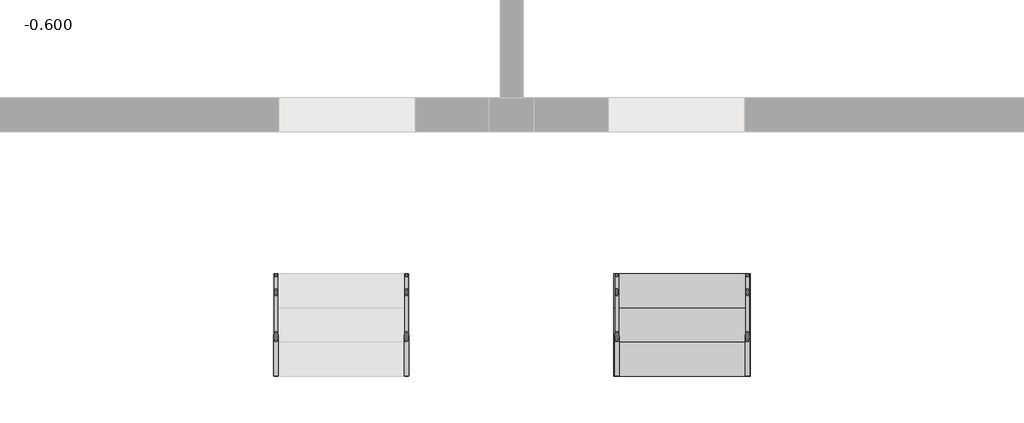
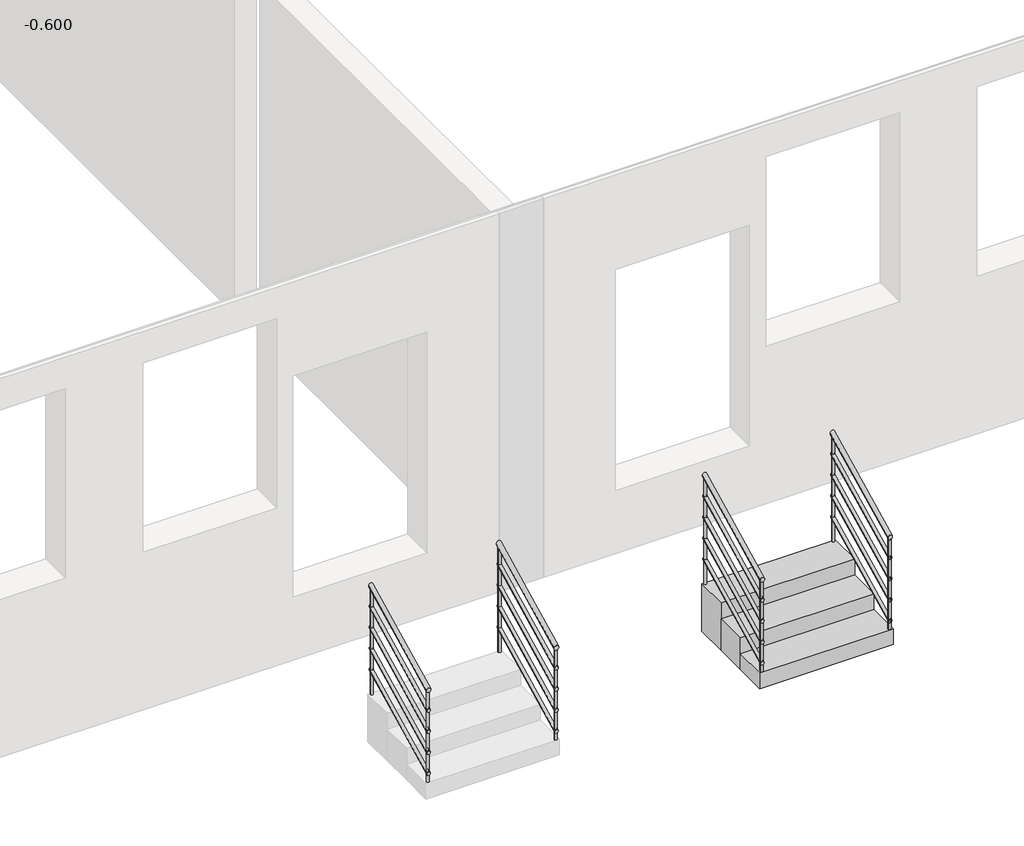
# One storey, part 2 of 2: 4 railings, 1 stair flight.
"""IFC4 building model written with IfcOpenShell, lengths in millimetres."""

from ifc_helpers import new_model, si_unit, frame, origin, place, context, project, spatial, circle_curve, ellipse_curve, faceted_brep, element, save
from ifc_brep_helpers import plane_surface, cylinder_surface, advanced_brep

model = new_model("IFC4")

# Units and contexts
model_context = context("Model", 3, world=origin())
ifc_project = project(units=[si_unit("LENGTHUNIT", "METRE", prefix="MILLI")], contexts=[model_context])

# Site, building, storey
site = spatial("IfcSite", under=ifc_project)
building = spatial("IfcBuilding", under=site)
storey = spatial("IfcBuildingStorey", under=building, Name="-0.600", Elevation=-600.0)

# Railings
placement = place(None, origin())
element("IfcRailing", 1, ObjectType="900mm 圆管", at=placement, inside=storey, context=model_context, shape_type="AdvancedBrep", body=[
    advanced_brep(
    [(-2744.9311174, -7419.5294667, 427.6393202), (-2784.9311174, -7419.5294667, 427.6393202), (-2744.9311174, -6519.5294667, 877.6393202), (-2784.9311174, -6519.5294667, 877.6393202)],
    [
        (0, 1, ellipse_curve(frame((-2764.9311174, -7419.5294667, 427.6393202), z_axis=(0.0, -1.0, 0.0), x_axis=(0.0, 0.0, -1.0)), 22.3606798, 20.0)),
        (1, 0, ellipse_curve(frame((-2764.9311174, -7419.5294667, 427.6393202), z_axis=(0.0, -1.0, 0.0), x_axis=(0.0, 0.0, -1.0)), 22.3606798, 20.0)),
        (2, 3, ellipse_curve(frame((-2764.9311174, -6519.5294667, 877.6393202), z_axis=(0.0, 1.0, 0.0), x_axis=(0.0, 0.0, -1.0)), 22.3606798, 20.0)),
        (3, 2, ellipse_curve(frame((-2764.9311174, -6519.5294667, 877.6393202), z_axis=(0.0, 1.0, 0.0), x_axis=(0.0, 0.0, -1.0)), 22.3606798, 20.0)),
        (0, 2),
        (3, 1),
    ],
    [
        plane_surface(frame((-2764.9311174, -7419.5294667, 450.0), z_axis=(0.0, -1.0, 0.0), x_axis=(0.0, 0.0, 1.0))),
        plane_surface(frame((-2764.9311174, -6519.5294667, 900.0), z_axis=(0.0, 1.0, 0.0), x_axis=(0.0, 0.0, 1.0))),
        cylinder_surface(frame((-2764.9311174, -7410.5851948, 432.1114562), z_axis=(0.0, -0.8944271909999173, -0.44721359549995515), x_axis=(-1.0, 0.0, 0.0)), 20.0),
    ],
    [
        (0, [[1, 2]]),
        (1, [[3, 4]]),
        (2, [[-1, 5, -4, 6]]),
        (2, [[-2, -6, -3, -5]]),
    ],
),
    advanced_brep(
    [(-2779.9311174, -7419.5294667, 233.2294902), (-2749.9311174, -7419.5294667, 233.2294902), (-2779.9311174, -6519.5294667, 683.2294902), (-2749.9311174, -6519.5294667, 683.2294902)],
    [
        (0, 1, ellipse_curve(frame((-2764.9311174, -7419.5294667, 233.2294902), z_axis=(0.0, -1.0, 0.0), x_axis=(0.0, 0.0, -1.0)), 16.7705098, 15.0)),
        (1, 0, ellipse_curve(frame((-2764.9311174, -7419.5294667, 233.2294902), z_axis=(0.0, -1.0, 0.0), x_axis=(0.0, 0.0, -1.0)), 16.7705098, 15.0)),
        (2, 3, ellipse_curve(frame((-2764.9311174, -6519.5294667, 683.2294902), z_axis=(0.0, 1.0, 0.0), x_axis=(0.0, 0.0, -1.0)), 16.7705098, 15.0)),
        (3, 2, ellipse_curve(frame((-2764.9311174, -6519.5294667, 683.2294902), z_axis=(0.0, 1.0, 0.0), x_axis=(0.0, 0.0, -1.0)), 16.7705098, 15.0)),
        (0, 2),
        (3, 1),
    ],
    [
        plane_surface(frame((-2764.9311174, -7419.5294667, 250.0), z_axis=(0.0, -1.0, 0.0), x_axis=(0.0, 0.0, 1.0))),
        plane_surface(frame((-2764.9311174, -6519.5294667, 700.0), z_axis=(0.0, 1.0, 0.0), x_axis=(0.0, 0.0, 1.0))),
        cylinder_surface(frame((-2764.9311174, -7412.8212628, 236.5835921), z_axis=(0.0, -0.8944271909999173, -0.44721359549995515), x_axis=(1.0, 0.0, 0.0)), 15.0),
    ],
    [
        (0, [[1, 2]]),
        (1, [[3, 4]]),
        (2, [[-1, 5, -4, 6]]),
        (2, [[-2, -6, -3, -5]]),
    ],
),
    advanced_brep(
    [(-2779.9311174, -7419.5294667, 33.2294902), (-2749.9311174, -7419.5294667, 33.2294902), (-2779.9311174, -6519.5294667, 483.2294902), (-2749.9311174, -6519.5294667, 483.2294902)],
    [
        (0, 1, ellipse_curve(frame((-2764.9311174, -7419.5294667, 33.2294902), z_axis=(0.0, -1.0, 0.0), x_axis=(0.0, 0.0, -1.0)), 16.7705098, 15.0)),
        (1, 0, ellipse_curve(frame((-2764.9311174, -7419.5294667, 33.2294902), z_axis=(0.0, -1.0, 0.0), x_axis=(0.0, 0.0, -1.0)), 16.7705098, 15.0)),
        (2, 3, ellipse_curve(frame((-2764.9311174, -6519.5294667, 483.2294902), z_axis=(0.0, 1.0, 0.0), x_axis=(0.0, 0.0, -1.0)), 16.7705098, 15.0)),
        (3, 2, ellipse_curve(frame((-2764.9311174, -6519.5294667, 483.2294902), z_axis=(0.0, 1.0, 0.0), x_axis=(0.0, 0.0, -1.0)), 16.7705098, 15.0)),
        (0, 2),
        (3, 1),
    ],
    [
        plane_surface(frame((-2764.9311174, -7419.5294667, 50.0), z_axis=(0.0, -1.0, 0.0), x_axis=(0.0, 0.0, 1.0))),
        plane_surface(frame((-2764.9311174, -6519.5294667, 500.0), z_axis=(0.0, 1.0, 0.0), x_axis=(0.0, 0.0, 1.0))),
        cylinder_surface(frame((-2764.9311174, -7412.8212628, 36.5835921), z_axis=(0.0, -0.8944271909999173, -0.44721359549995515), x_axis=(1.0, 0.0, 0.0)), 15.0),
    ],
    [
        (0, [[1, 2]]),
        (1, [[3, 4]]),
        (2, [[-1, 5, -4, 6]]),
        (2, [[-2, -6, -3, -5]]),
    ],
),
    advanced_brep(
    [(-2779.9311174, -7419.5294667, -166.7705098), (-2749.9311174, -7419.5294667, -166.7705098), (-2779.9311174, -6519.5294667, 283.2294902), (-2749.9311174, -6519.5294667, 283.2294902)],
    [
        (0, 1, ellipse_curve(frame((-2764.9311174, -7419.5294667, -166.7705098), z_axis=(0.0, -1.0, 0.0), x_axis=(0.0, 0.0, -1.0)), 16.7705098, 15.0)),
        (1, 0, ellipse_curve(frame((-2764.9311174, -7419.5294667, -166.7705098), z_axis=(0.0, -1.0, 0.0), x_axis=(0.0, 0.0, -1.0)), 16.7705098, 15.0)),
        (2, 3, ellipse_curve(frame((-2764.9311174, -6519.5294667, 283.2294902), z_axis=(0.0, 1.0, 0.0), x_axis=(0.0, 0.0, -1.0)), 16.7705098, 15.0)),
        (3, 2, ellipse_curve(frame((-2764.9311174, -6519.5294667, 283.2294902), z_axis=(0.0, 1.0, 0.0), x_axis=(0.0, 0.0, -1.0)), 16.7705098, 15.0)),
        (0, 2),
        (3, 1),
    ],
    [
        plane_surface(frame((-2764.9311174, -7419.5294667, -150.0), z_axis=(0.0, -1.0, 0.0), x_axis=(0.0, 0.0, 1.0))),
        plane_surface(frame((-2764.9311174, -6519.5294667, 300.0), z_axis=(0.0, 1.0, 0.0), x_axis=(0.0, 0.0, 1.0))),
        cylinder_surface(frame((-2764.9311174, -7412.8212628, -163.4164079), z_axis=(0.0, -0.8944271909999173, -0.44721359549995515), x_axis=(1.0, 0.0, 0.0)), 15.0),
    ],
    [
        (0, [[1, 2]]),
        (1, [[3, 4]]),
        (2, [[-1, 5, -4, 6]]),
        (2, [[-2, -6, -3, -5]]),
    ],
),
    advanced_brep(
    [(-2779.9311174, -7419.5294667, -366.7705098), (-2749.9311174, -7419.5294667, -366.7705098), (-2779.9311174, -6519.5294667, 83.2294902), (-2749.9311174, -6519.5294667, 83.2294902)],
    [
        (0, 1, ellipse_curve(frame((-2764.9311174, -7419.5294667, -366.7705098), z_axis=(0.0, -1.0, 0.0), x_axis=(0.0, 0.0, -1.0)), 16.7705098, 15.0)),
        (1, 0, ellipse_curve(frame((-2764.9311174, -7419.5294667, -366.7705098), z_axis=(0.0, -1.0, 0.0), x_axis=(0.0, 0.0, -1.0)), 16.7705098, 15.0)),
        (2, 3, ellipse_curve(frame((-2764.9311174, -6519.5294667, 83.2294902), z_axis=(0.0, 1.0, 0.0), x_axis=(0.0, 0.0, -1.0)), 16.7705098, 15.0)),
        (3, 2, ellipse_curve(frame((-2764.9311174, -6519.5294667, 83.2294902), z_axis=(0.0, 1.0, 0.0), x_axis=(0.0, 0.0, -1.0)), 16.7705098, 15.0)),
        (0, 2),
        (3, 1),
    ],
    [
        plane_surface(frame((-2764.9311174, -7419.5294667, -350.0), z_axis=(0.0, -1.0, 0.0), x_axis=(0.0, 0.0, 1.0))),
        plane_surface(frame((-2764.9311174, -6519.5294667, 100.0), z_axis=(0.0, 1.0, 0.0), x_axis=(0.0, 0.0, 1.0))),
        cylinder_surface(frame((-2764.9311174, -7412.8212628, -363.4164079), z_axis=(0.0, -0.8944271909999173, -0.44721359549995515), x_axis=(1.0, 0.0, 0.0)), 15.0),
    ],
    [
        (0, [[1, 2]]),
        (1, [[3, 4]]),
        (2, [[-1, 5, -4, 6]]),
        (2, [[-2, -6, -3, -5]]),
    ],
),
    advanced_brep(
    [(-2752.4311174, -6532.0294667, 849.0286405), (-2752.4311174, -6532.0294667, -150.0), (-2777.4311174, -6532.0294667, -150.0), (-2777.4311174, -6532.0294667, 849.0286405)],
    [
        (0, 1),
        (1, 2, circle_curve(frame((-2764.9311174, -6532.0294667, -150.0), z_axis=(0.0, 0.0, 1.0), x_axis=(-1.0, 0.0, 0.0)), 12.5)),
        (2, 3),
        (3, 0, ellipse_curve(frame((-2764.9311174, -6532.0294667, 849.0286405), z_axis=(0.0, 0.4472135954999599, -0.894427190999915), x_axis=(0.0, 0.8944271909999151, 0.44721359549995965)), 13.9754249, 12.5)),
        (0, 3, ellipse_curve(frame((-2764.9311174, -6532.0294667, 849.0286405), z_axis=(0.0, 0.4472135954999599, -0.894427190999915), x_axis=(0.0, 0.8944271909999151, 0.44721359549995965)), 13.9754249, 12.5)),
        (2, 1, circle_curve(frame((-2764.9311174, -6532.0294667, -150.0), z_axis=(0.0, 0.0, 1.0), x_axis=(-1.0, 0.0, 0.0)), 12.5)),
    ],
    [
        cylinder_surface(frame((-2764.9311174, -6532.0294667, -250.0), z_axis=(0.0, 0.0, 1.0), x_axis=(-1.0, 0.0, 0.0)), 12.5),
        plane_surface(frame((-2789.9311174, -6507.0294667, 861.5286405), z_axis=(0.0, -0.4472135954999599, 0.894427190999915), x_axis=(1.0, 0.0, 0.0))),
        plane_surface(frame((-2789.9311174, -6557.0294667, -150.0), z_axis=(0.0, 0.0, -1.0), x_axis=(1.0, 0.0, 0.0))),
    ],
    [
        (0, [[1, 2, 3, 4]]),
        (0, [[-1, 5, -3, 6]]),
        (1, [[-4, -5]]),
        (2, [[-2, -6]]),
    ],
),
    advanced_brep(
    [(-2752.4311174, -7407.0294667, 411.5286405), (-2752.4311174, -7407.0294667, -450.0), (-2777.4311174, -7407.0294667, -450.0), (-2777.4311174, -7407.0294667, 411.5286405)],
    [
        (0, 1),
        (1, 2, circle_curve(frame((-2764.9311174, -7407.0294667, -450.0), z_axis=(0.0, 0.0, 1.0), x_axis=(-1.0, 0.0, 0.0)), 12.5)),
        (2, 3),
        (3, 0, ellipse_curve(frame((-2764.9311174, -7407.0294667, 411.5286405), z_axis=(0.0, 0.4472135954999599, -0.894427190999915), x_axis=(0.0, 0.8944271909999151, 0.44721359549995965)), 13.9754249, 12.5)),
        (0, 3, ellipse_curve(frame((-2764.9311174, -7407.0294667, 411.5286405), z_axis=(0.0, 0.4472135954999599, -0.894427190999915), x_axis=(0.0, 0.8944271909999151, 0.44721359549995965)), 13.9754249, 12.5)),
        (2, 1, circle_curve(frame((-2764.9311174, -7407.0294667, -450.0), z_axis=(0.0, 0.0, 1.0), x_axis=(-1.0, 0.0, 0.0)), 12.5)),
    ],
    [
        cylinder_surface(frame((-2764.9311174, -7407.0294667, -550.0), z_axis=(0.0, 0.0, 1.0), x_axis=(-1.0, 0.0, 0.0)), 12.5),
        plane_surface(frame((-2789.9311174, -7382.0294667, 424.0286405), z_axis=(0.0, -0.4472135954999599, 0.894427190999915), x_axis=(1.0, 0.0, 0.0))),
        plane_surface(frame((-2789.9311174, -7432.0294667, -450.0), z_axis=(0.0, 0.0, -1.0), x_axis=(1.0, 0.0, 0.0))),
    ],
    [
        (0, [[1, 2, 3, 4]]),
        (0, [[-1, 5, -3, 6]]),
        (1, [[-4, -5]]),
        (2, [[-2, -6]]),
    ],
),
])
element("IfcRailing", 2, ObjectType="900mm 圆管", at=placement, inside=storey, context=model_context, shape_type="AdvancedBrep", body=[
    advanced_brep(
    [(-3894.1311174, -7419.5294667, 427.6393202), (-3934.1311174, -7419.5294667, 427.6393202), (-3894.1311174, -6519.5294667, 877.6393202), (-3934.1311174, -6519.5294667, 877.6393202)],
    [
        (0, 1, ellipse_curve(frame((-3914.1311174, -7419.5294667, 427.6393202), z_axis=(0.0, -1.0, 0.0), x_axis=(0.0, 0.0, -1.0)), 22.3606798, 20.0)),
        (1, 0, ellipse_curve(frame((-3914.1311174, -7419.5294667, 427.6393202), z_axis=(0.0, -1.0, 0.0), x_axis=(0.0, 0.0, -1.0)), 22.3606798, 20.0)),
        (2, 3, ellipse_curve(frame((-3914.1311174, -6519.5294667, 877.6393202), z_axis=(0.0, 1.0, 0.0), x_axis=(0.0, 0.0, -1.0)), 22.3606798, 20.0)),
        (3, 2, ellipse_curve(frame((-3914.1311174, -6519.5294667, 877.6393202), z_axis=(0.0, 1.0, 0.0), x_axis=(0.0, 0.0, -1.0)), 22.3606798, 20.0)),
        (0, 2),
        (3, 1),
    ],
    [
        plane_surface(frame((-3914.1311174, -7419.5294667, 450.0), z_axis=(0.0, -1.0, 0.0), x_axis=(0.0, 0.0, 1.0))),
        plane_surface(frame((-3914.1311174, -6519.5294667, 900.0), z_axis=(0.0, 1.0, 0.0), x_axis=(0.0, 0.0, 1.0))),
        cylinder_surface(frame((-3914.1311174, -7410.5851948, 432.1114562), z_axis=(0.0, -0.8944271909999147, -0.4472135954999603), x_axis=(-1.0, 0.0, 0.0)), 20.0),
    ],
    [
        (0, [[1, 2]]),
        (1, [[3, 4]]),
        (2, [[-1, 5, -4, 6]]),
        (2, [[-2, -6, -3, -5]]),
    ],
),
    advanced_brep(
    [(-3899.1311174, -7419.5294667, 233.2294902), (-3929.1311174, -7419.5294667, 233.2294902), (-3899.1311174, -6519.5294667, 683.2294902), (-3929.1311174, -6519.5294667, 683.2294902)],
    [
        (0, 1, ellipse_curve(frame((-3914.1311174, -7419.5294667, 233.2294902), z_axis=(0.0, -1.0, 0.0), x_axis=(0.0, 0.0, -1.0)), 16.7705098, 15.0)),
        (1, 0, ellipse_curve(frame((-3914.1311174, -7419.5294667, 233.2294902), z_axis=(0.0, -1.0, 0.0), x_axis=(0.0, 0.0, -1.0)), 16.7705098, 15.0)),
        (2, 3, ellipse_curve(frame((-3914.1311174, -6519.5294667, 683.2294902), z_axis=(0.0, 1.0, 0.0), x_axis=(0.0, 0.0, -1.0)), 16.7705098, 15.0)),
        (3, 2, ellipse_curve(frame((-3914.1311174, -6519.5294667, 683.2294902), z_axis=(0.0, 1.0, 0.0), x_axis=(0.0, 0.0, -1.0)), 16.7705098, 15.0)),
        (0, 2),
        (3, 1),
    ],
    [
        plane_surface(frame((-3914.1311174, -7419.5294667, 250.0), z_axis=(0.0, -1.0, 0.0), x_axis=(0.0, 0.0, 1.0))),
        plane_surface(frame((-3914.1311174, -6519.5294667, 700.0), z_axis=(0.0, 1.0, 0.0), x_axis=(0.0, 0.0, 1.0))),
        cylinder_surface(frame((-3914.1311174, -7412.8212628, 236.5835921), z_axis=(0.0, -0.8944271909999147, -0.4472135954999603), x_axis=(-1.0, 0.0, 0.0)), 15.0),
    ],
    [
        (0, [[1, 2]]),
        (1, [[3, 4]]),
        (2, [[-1, 5, -4, 6]]),
        (2, [[-2, -6, -3, -5]]),
    ],
),
    advanced_brep(
    [(-3899.1311174, -7419.5294667, 33.2294902), (-3929.1311174, -7419.5294667, 33.2294902), (-3899.1311174, -6519.5294667, 483.2294902), (-3929.1311174, -6519.5294667, 483.2294902)],
    [
        (0, 1, ellipse_curve(frame((-3914.1311174, -7419.5294667, 33.2294902), z_axis=(0.0, -1.0, 0.0), x_axis=(0.0, 0.0, -1.0)), 16.7705098, 15.0)),
        (1, 0, ellipse_curve(frame((-3914.1311174, -7419.5294667, 33.2294902), z_axis=(0.0, -1.0, 0.0), x_axis=(0.0, 0.0, -1.0)), 16.7705098, 15.0)),
        (2, 3, ellipse_curve(frame((-3914.1311174, -6519.5294667, 483.2294902), z_axis=(0.0, 1.0, 0.0), x_axis=(0.0, 0.0, -1.0)), 16.7705098, 15.0)),
        (3, 2, ellipse_curve(frame((-3914.1311174, -6519.5294667, 483.2294902), z_axis=(0.0, 1.0, 0.0), x_axis=(0.0, 0.0, -1.0)), 16.7705098, 15.0)),
        (0, 2),
        (3, 1),
    ],
    [
        plane_surface(frame((-3914.1311174, -7419.5294667, 50.0), z_axis=(0.0, -1.0, 0.0), x_axis=(0.0, 0.0, 1.0))),
        plane_surface(frame((-3914.1311174, -6519.5294667, 500.0), z_axis=(0.0, 1.0, 0.0), x_axis=(0.0, 0.0, 1.0))),
        cylinder_surface(frame((-3914.1311174, -7412.8212628, 36.5835921), z_axis=(0.0, -0.8944271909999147, -0.4472135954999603), x_axis=(-1.0, 0.0, 0.0)), 15.0),
    ],
    [
        (0, [[1, 2]]),
        (1, [[3, 4]]),
        (2, [[-1, 5, -4, 6]]),
        (2, [[-2, -6, -3, -5]]),
    ],
),
    advanced_brep(
    [(-3899.1311174, -7419.5294667, -166.7705098), (-3929.1311174, -7419.5294667, -166.7705098), (-3899.1311174, -6519.5294667, 283.2294902), (-3929.1311174, -6519.5294667, 283.2294902)],
    [
        (0, 1, ellipse_curve(frame((-3914.1311174, -7419.5294667, -166.7705098), z_axis=(0.0, -1.0, 0.0), x_axis=(0.0, 0.0, -1.0)), 16.7705098, 15.0)),
        (1, 0, ellipse_curve(frame((-3914.1311174, -7419.5294667, -166.7705098), z_axis=(0.0, -1.0, 0.0), x_axis=(0.0, 0.0, -1.0)), 16.7705098, 15.0)),
        (2, 3, ellipse_curve(frame((-3914.1311174, -6519.5294667, 283.2294902), z_axis=(0.0, 1.0, 0.0), x_axis=(0.0, 0.0, -1.0)), 16.7705098, 15.0)),
        (3, 2, ellipse_curve(frame((-3914.1311174, -6519.5294667, 283.2294902), z_axis=(0.0, 1.0, 0.0), x_axis=(0.0, 0.0, -1.0)), 16.7705098, 15.0)),
        (0, 2),
        (3, 1),
    ],
    [
        plane_surface(frame((-3914.1311174, -7419.5294667, -150.0), z_axis=(0.0, -1.0, 0.0), x_axis=(0.0, 0.0, 1.0))),
        plane_surface(frame((-3914.1311174, -6519.5294667, 300.0), z_axis=(0.0, 1.0, 0.0), x_axis=(0.0, 0.0, 1.0))),
        cylinder_surface(frame((-3914.1311174, -7412.8212628, -163.4164079), z_axis=(0.0, -0.8944271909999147, -0.4472135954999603), x_axis=(-1.0, 0.0, 0.0)), 15.0),
    ],
    [
        (0, [[1, 2]]),
        (1, [[3, 4]]),
        (2, [[-1, 5, -4, 6]]),
        (2, [[-2, -6, -3, -5]]),
    ],
),
    advanced_brep(
    [(-3899.1311174, -7419.5294667, -366.7705098), (-3929.1311174, -7419.5294667, -366.7705098), (-3899.1311174, -6519.5294667, 83.2294902), (-3929.1311174, -6519.5294667, 83.2294902)],
    [
        (0, 1, ellipse_curve(frame((-3914.1311174, -7419.5294667, -366.7705098), z_axis=(0.0, -1.0, 0.0), x_axis=(0.0, 0.0, -1.0)), 16.7705098, 15.0)),
        (1, 0, ellipse_curve(frame((-3914.1311174, -7419.5294667, -366.7705098), z_axis=(0.0, -1.0, 0.0), x_axis=(0.0, 0.0, -1.0)), 16.7705098, 15.0)),
        (2, 3, ellipse_curve(frame((-3914.1311174, -6519.5294667, 83.2294902), z_axis=(0.0, 1.0, 0.0), x_axis=(0.0, 0.0, -1.0)), 16.7705098, 15.0)),
        (3, 2, ellipse_curve(frame((-3914.1311174, -6519.5294667, 83.2294902), z_axis=(0.0, 1.0, 0.0), x_axis=(0.0, 0.0, -1.0)), 16.7705098, 15.0)),
        (0, 2),
        (3, 1),
    ],
    [
        plane_surface(frame((-3914.1311174, -7419.5294667, -350.0), z_axis=(0.0, -1.0, 0.0), x_axis=(0.0, 0.0, 1.0))),
        plane_surface(frame((-3914.1311174, -6519.5294667, 100.0), z_axis=(0.0, 1.0, 0.0), x_axis=(0.0, 0.0, 1.0))),
        cylinder_surface(frame((-3914.1311174, -7412.8212628, -363.4164079), z_axis=(0.0, -0.8944271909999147, -0.4472135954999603), x_axis=(-1.0, 0.0, 0.0)), 15.0),
    ],
    [
        (0, [[1, 2]]),
        (1, [[3, 4]]),
        (2, [[-1, 5, -4, 6]]),
        (2, [[-2, -6, -3, -5]]),
    ],
),
    advanced_brep(
    [(-3926.6311174, -6532.0294667, 849.0286405), (-3901.6311174, -6532.0294667, 849.0286405), (-3901.6311174, -6532.0294667, -150.0), (-3926.6311174, -6532.0294667, -150.0)],
    [
        (0, 1, ellipse_curve(frame((-3914.1311174, -6532.0294667, 849.0286405), z_axis=(0.0, 0.4472135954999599, -0.894427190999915), x_axis=(0.0, 0.8944271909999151, 0.44721359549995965)), 13.9754249, 12.5)),
        (1, 2),
        (2, 3, circle_curve(frame((-3914.1311174, -6532.0294667, -150.0), z_axis=(0.0, 0.0, 1.0), x_axis=(1.0, 0.0, 0.0)), 12.5)),
        (3, 0),
        (3, 2, circle_curve(frame((-3914.1311174, -6532.0294667, -150.0), z_axis=(0.0, 0.0, 1.0), x_axis=(1.0, 0.0, 0.0)), 12.5)),
        (1, 0, ellipse_curve(frame((-3914.1311174, -6532.0294667, 849.0286405), z_axis=(0.0, 0.4472135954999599, -0.894427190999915), x_axis=(0.0, 0.8944271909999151, 0.44721359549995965)), 13.9754249, 12.5)),
    ],
    [
        cylinder_surface(frame((-3914.1311174, -6532.0294667, -250.0), z_axis=(0.0, 0.0, 1.0), x_axis=(1.0, 0.0, 0.0)), 12.5),
        plane_surface(frame((-3889.1311174, -6507.0294667, 861.5286405), z_axis=(0.0, -0.4472135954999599, 0.894427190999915), x_axis=(-1.0, 0.0, 0.0))),
        plane_surface(frame((-3889.1311174, -6557.0294667, -150.0), z_axis=(0.0, 0.0, -1.0), x_axis=(-1.0, 0.0, 0.0))),
    ],
    [
        (0, [[1, 2, 3, 4]]),
        (0, [[5, -2, 6, -4]]),
        (1, [[-6, -1]]),
        (2, [[-5, -3]]),
    ],
),
    advanced_brep(
    [(-3926.6311174, -7407.0294667, 411.5286405), (-3901.6311174, -7407.0294667, 411.5286405), (-3901.6311174, -7407.0294667, -450.0), (-3926.6311174, -7407.0294667, -450.0)],
    [
        (0, 1, ellipse_curve(frame((-3914.1311174, -7407.0294667, 411.5286405), z_axis=(0.0, 0.4472135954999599, -0.894427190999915), x_axis=(0.0, 0.8944271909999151, 0.44721359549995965)), 13.9754249, 12.5)),
        (1, 2),
        (2, 3, circle_curve(frame((-3914.1311174, -7407.0294667, -450.0), z_axis=(0.0, 0.0, 1.0), x_axis=(1.0, 0.0, 0.0)), 12.5)),
        (3, 0),
        (3, 2, circle_curve(frame((-3914.1311174, -7407.0294667, -450.0), z_axis=(0.0, 0.0, 1.0), x_axis=(1.0, 0.0, 0.0)), 12.5)),
        (1, 0, ellipse_curve(frame((-3914.1311174, -7407.0294667, 411.5286405), z_axis=(0.0, 0.4472135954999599, -0.894427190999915), x_axis=(0.0, 0.8944271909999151, 0.44721359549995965)), 13.9754249, 12.5)),
    ],
    [
        cylinder_surface(frame((-3914.1311174, -7407.0294667, -550.0), z_axis=(0.0, 0.0, 1.0), x_axis=(1.0, 0.0, 0.0)), 12.5),
        plane_surface(frame((-3889.1311174, -7382.0294667, 424.0286405), z_axis=(0.0, -0.4472135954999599, 0.894427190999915), x_axis=(-1.0, 0.0, 0.0))),
        plane_surface(frame((-3889.1311174, -7432.0294667, -450.0), z_axis=(0.0, 0.0, -1.0), x_axis=(-1.0, 0.0, 0.0))),
    ],
    [
        (0, [[1, 2, 3, 4]]),
        (0, [[5, -2, 6, -4]]),
        (1, [[-6, -1]]),
        (2, [[-5, -3]]),
    ],
),
])
element("IfcRailing", 3, ObjectType="900mm 圆管", at=placement, inside=storey, context=model_context, shape_type="AdvancedBrep", body=[
    advanced_brep(
    [(-894.1311174, -7419.5294667, 427.6393202), (-934.1311174, -7419.5294667, 427.6393202), (-894.1311174, -6519.5294667, 877.6393202), (-934.1311174, -6519.5294667, 877.6393202)],
    [
        (0, 1, ellipse_curve(frame((-914.1311174, -7419.5294667, 427.6393202), z_axis=(0.0, -1.0, 0.0), x_axis=(0.0, 0.0, -1.0)), 22.3606798, 20.0)),
        (1, 0, ellipse_curve(frame((-914.1311174, -7419.5294667, 427.6393202), z_axis=(0.0, -1.0, 0.0), x_axis=(0.0, 0.0, -1.0)), 22.3606798, 20.0)),
        (2, 3, ellipse_curve(frame((-914.1311174, -6519.5294667, 877.6393202), z_axis=(0.0, 1.0, 0.0), x_axis=(0.0, 0.0, -1.0)), 22.3606798, 20.0)),
        (3, 2, ellipse_curve(frame((-914.1311174, -6519.5294667, 877.6393202), z_axis=(0.0, 1.0, 0.0), x_axis=(0.0, 0.0, -1.0)), 22.3606798, 20.0)),
        (0, 2),
        (3, 1),
    ],
    [
        plane_surface(frame((-914.1311174, -7419.5294667, 450.0), z_axis=(0.0, -1.0, 0.0), x_axis=(0.0, 0.0, 1.0))),
        plane_surface(frame((-914.1311174, -6519.5294667, 900.0), z_axis=(0.0, 1.0, 0.0), x_axis=(0.0, 0.0, 1.0))),
        cylinder_surface(frame((-914.1311174, -7410.5851948, 432.1114562), z_axis=(0.0, -0.894427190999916, -0.4472135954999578), x_axis=(-1.0, 0.0, 0.0)), 20.0),
    ],
    [
        (0, [[1, 2]]),
        (1, [[3, 4]]),
        (2, [[-1, 5, -4, 6]]),
        (2, [[-2, -6, -3, -5]]),
    ],
),
    advanced_brep(
    [(-899.1311174, -7419.5294667, 233.2294902), (-929.1311174, -7419.5294667, 233.2294902), (-899.1311174, -6519.5294667, 683.2294902), (-929.1311174, -6519.5294667, 683.2294902)],
    [
        (0, 1, ellipse_curve(frame((-914.1311174, -7419.5294667, 233.2294902), z_axis=(0.0, -1.0, 0.0), x_axis=(0.0, 0.0, -1.0)), 16.7705098, 15.0)),
        (1, 0, ellipse_curve(frame((-914.1311174, -7419.5294667, 233.2294902), z_axis=(0.0, -1.0, 0.0), x_axis=(0.0, 0.0, -1.0)), 16.7705098, 15.0)),
        (2, 3, ellipse_curve(frame((-914.1311174, -6519.5294667, 683.2294902), z_axis=(0.0, 1.0, 0.0), x_axis=(0.0, 0.0, -1.0)), 16.7705098, 15.0)),
        (3, 2, ellipse_curve(frame((-914.1311174, -6519.5294667, 683.2294902), z_axis=(0.0, 1.0, 0.0), x_axis=(0.0, 0.0, -1.0)), 16.7705098, 15.0)),
        (1, 3),
        (2, 0),
    ],
    [
        plane_surface(frame((-914.1311174, -7419.5294667, 250.0), z_axis=(0.0, -1.0, 0.0), x_axis=(0.0, 0.0, 1.0))),
        plane_surface(frame((-914.1311174, -6519.5294667, 700.0), z_axis=(0.0, 1.0, 0.0), x_axis=(0.0, 0.0, 1.0))),
        cylinder_surface(frame((-914.1311174, -7412.8212628, 236.5835921), z_axis=(0.0, -0.894427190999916, -0.4472135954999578), x_axis=(-1.0, 0.0, 0.0)), 15.0),
    ],
    [
        (0, [[1, 2]]),
        (1, [[3, 4]]),
        (2, [[-2, 5, -3, 6]]),
        (2, [[-1, -6, -4, -5]]),
    ],
),
    advanced_brep(
    [(-899.1311174, -7419.5294667, 33.2294902), (-929.1311174, -7419.5294667, 33.2294902), (-899.1311174, -6519.5294667, 483.2294902), (-929.1311174, -6519.5294667, 483.2294902)],
    [
        (0, 1, ellipse_curve(frame((-914.1311174, -7419.5294667, 33.2294902), z_axis=(0.0, -1.0, 0.0), x_axis=(0.0, 0.0, -1.0)), 16.7705098, 15.0)),
        (1, 0, ellipse_curve(frame((-914.1311174, -7419.5294667, 33.2294902), z_axis=(0.0, -1.0, 0.0), x_axis=(0.0, 0.0, -1.0)), 16.7705098, 15.0)),
        (2, 3, ellipse_curve(frame((-914.1311174, -6519.5294667, 483.2294902), z_axis=(0.0, 1.0, 0.0), x_axis=(0.0, 0.0, -1.0)), 16.7705098, 15.0)),
        (3, 2, ellipse_curve(frame((-914.1311174, -6519.5294667, 483.2294902), z_axis=(0.0, 1.0, 0.0), x_axis=(0.0, 0.0, -1.0)), 16.7705098, 15.0)),
        (1, 3),
        (2, 0),
    ],
    [
        plane_surface(frame((-914.1311174, -7419.5294667, 50.0), z_axis=(0.0, -1.0, 0.0), x_axis=(0.0, 0.0, 1.0))),
        plane_surface(frame((-914.1311174, -6519.5294667, 500.0), z_axis=(0.0, 1.0, 0.0), x_axis=(0.0, 0.0, 1.0))),
        cylinder_surface(frame((-914.1311174, -7412.8212628, 36.5835921), z_axis=(0.0, -0.894427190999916, -0.4472135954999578), x_axis=(-1.0, 0.0, 0.0)), 15.0),
    ],
    [
        (0, [[1, 2]]),
        (1, [[3, 4]]),
        (2, [[-2, 5, -3, 6]]),
        (2, [[-1, -6, -4, -5]]),
    ],
),
    advanced_brep(
    [(-899.1311174, -7419.5294667, -166.7705098), (-929.1311174, -7419.5294667, -166.7705098), (-899.1311174, -6519.5294667, 283.2294902), (-929.1311174, -6519.5294667, 283.2294902)],
    [
        (0, 1, ellipse_curve(frame((-914.1311174, -7419.5294667, -166.7705098), z_axis=(0.0, -1.0, 0.0), x_axis=(0.0, 0.0, -1.0)), 16.7705098, 15.0)),
        (1, 0, ellipse_curve(frame((-914.1311174, -7419.5294667, -166.7705098), z_axis=(0.0, -1.0, 0.0), x_axis=(0.0, 0.0, -1.0)), 16.7705098, 15.0)),
        (2, 3, ellipse_curve(frame((-914.1311174, -6519.5294667, 283.2294902), z_axis=(0.0, 1.0, 0.0), x_axis=(0.0, 0.0, -1.0)), 16.7705098, 15.0)),
        (3, 2, ellipse_curve(frame((-914.1311174, -6519.5294667, 283.2294902), z_axis=(0.0, 1.0, 0.0), x_axis=(0.0, 0.0, -1.0)), 16.7705098, 15.0)),
        (1, 3),
        (2, 0),
    ],
    [
        plane_surface(frame((-914.1311174, -7419.5294667, -150.0), z_axis=(0.0, -1.0, 0.0), x_axis=(0.0, 0.0, 1.0))),
        plane_surface(frame((-914.1311174, -6519.5294667, 300.0), z_axis=(0.0, 1.0, 0.0), x_axis=(0.0, 0.0, 1.0))),
        cylinder_surface(frame((-914.1311174, -7412.8212628, -163.4164079), z_axis=(0.0, -0.894427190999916, -0.4472135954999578), x_axis=(-1.0, 0.0, 0.0)), 15.0),
    ],
    [
        (0, [[1, 2]]),
        (1, [[3, 4]]),
        (2, [[-2, 5, -3, 6]]),
        (2, [[-1, -6, -4, -5]]),
    ],
),
    advanced_brep(
    [(-899.1311174, -7419.5294667, -366.7705098), (-929.1311174, -7419.5294667, -366.7705098), (-899.1311174, -6519.5294667, 83.2294902), (-929.1311174, -6519.5294667, 83.2294902)],
    [
        (0, 1, ellipse_curve(frame((-914.1311174, -7419.5294667, -366.7705098), z_axis=(0.0, -1.0, 0.0), x_axis=(0.0, 0.0, -1.0)), 16.7705098, 15.0)),
        (1, 0, ellipse_curve(frame((-914.1311174, -7419.5294667, -366.7705098), z_axis=(0.0, -1.0, 0.0), x_axis=(0.0, 0.0, -1.0)), 16.7705098, 15.0)),
        (2, 3, ellipse_curve(frame((-914.1311174, -6519.5294667, 83.2294902), z_axis=(0.0, 1.0, 0.0), x_axis=(0.0, 0.0, -1.0)), 16.7705098, 15.0)),
        (3, 2, ellipse_curve(frame((-914.1311174, -6519.5294667, 83.2294902), z_axis=(0.0, 1.0, 0.0), x_axis=(0.0, 0.0, -1.0)), 16.7705098, 15.0)),
        (1, 3),
        (2, 0),
    ],
    [
        plane_surface(frame((-914.1311174, -7419.5294667, -350.0), z_axis=(0.0, -1.0, 0.0), x_axis=(0.0, 0.0, 1.0))),
        plane_surface(frame((-914.1311174, -6519.5294667, 100.0), z_axis=(0.0, 1.0, 0.0), x_axis=(0.0, 0.0, 1.0))),
        cylinder_surface(frame((-914.1311174, -7412.8212628, -363.4164079), z_axis=(0.0, -0.894427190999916, -0.4472135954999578), x_axis=(-1.0, 0.0, 0.0)), 15.0),
    ],
    [
        (0, [[1, 2]]),
        (1, [[3, 4]]),
        (2, [[-2, 5, -3, 6]]),
        (2, [[-1, -6, -4, -5]]),
    ],
),
    advanced_brep(
    [(-926.6311174, -6532.0294667, 849.0286405), (-901.6311174, -6532.0294667, 849.0286405), (-901.6311174, -6532.0294667, -150.0), (-926.6311174, -6532.0294667, -150.0)],
    [
        (0, 1, ellipse_curve(frame((-914.1311174, -6532.0294667, 849.0286405), z_axis=(0.0, 0.4472135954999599, -0.894427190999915), x_axis=(0.0, 0.8944271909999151, 0.44721359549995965)), 13.9754249, 12.5)),
        (1, 2),
        (2, 3, circle_curve(frame((-914.1311174, -6532.0294667, -150.0), z_axis=(0.0, 0.0, 1.0), x_axis=(1.0, 0.0, 0.0)), 12.5)),
        (3, 0),
        (3, 2, circle_curve(frame((-914.1311174, -6532.0294667, -150.0), z_axis=(0.0, 0.0, 1.0), x_axis=(1.0, 0.0, 0.0)), 12.5)),
        (1, 0, ellipse_curve(frame((-914.1311174, -6532.0294667, 849.0286405), z_axis=(0.0, 0.4472135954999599, -0.894427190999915), x_axis=(0.0, 0.8944271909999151, 0.44721359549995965)), 13.9754249, 12.5)),
    ],
    [
        cylinder_surface(frame((-914.1311174, -6532.0294667, -250.0), z_axis=(0.0, 0.0, 1.0), x_axis=(1.0, 0.0, 0.0)), 12.5),
        plane_surface(frame((-889.1311174, -6507.0294667, 861.5286405), z_axis=(0.0, -0.4472135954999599, 0.894427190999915), x_axis=(-1.0, 0.0, 0.0))),
        plane_surface(frame((-889.1311174, -6557.0294667, -150.0), z_axis=(0.0, 0.0, -1.0), x_axis=(-1.0, 0.0, 0.0))),
    ],
    [
        (0, [[1, 2, 3, 4]]),
        (0, [[5, -2, 6, -4]]),
        (1, [[-6, -1]]),
        (2, [[-5, -3]]),
    ],
),
    advanced_brep(
    [(-926.6311174, -7407.0294667, 411.5286405), (-901.6311174, -7407.0294667, 411.5286405), (-901.6311174, -7407.0294667, -450.0), (-926.6311174, -7407.0294667, -450.0)],
    [
        (0, 1, ellipse_curve(frame((-914.1311174, -7407.0294667, 411.5286405), z_axis=(0.0, 0.4472135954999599, -0.894427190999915), x_axis=(0.0, 0.8944271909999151, 0.44721359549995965)), 13.9754249, 12.5)),
        (1, 2),
        (2, 3, circle_curve(frame((-914.1311174, -7407.0294667, -450.0), z_axis=(0.0, 0.0, 1.0), x_axis=(1.0, 0.0, 0.0)), 12.5)),
        (3, 0),
        (3, 2, circle_curve(frame((-914.1311174, -7407.0294667, -450.0), z_axis=(0.0, 0.0, 1.0), x_axis=(1.0, 0.0, 0.0)), 12.5)),
        (1, 0, ellipse_curve(frame((-914.1311174, -7407.0294667, 411.5286405), z_axis=(0.0, 0.4472135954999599, -0.894427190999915), x_axis=(0.0, 0.8944271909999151, 0.44721359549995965)), 13.9754249, 12.5)),
    ],
    [
        cylinder_surface(frame((-914.1311174, -7407.0294667, -550.0), z_axis=(0.0, 0.0, 1.0), x_axis=(1.0, 0.0, 0.0)), 12.5),
        plane_surface(frame((-889.1311174, -7382.0294667, 424.0286405), z_axis=(0.0, -0.4472135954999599, 0.894427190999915), x_axis=(-1.0, 0.0, 0.0))),
        plane_surface(frame((-889.1311174, -7432.0294667, -450.0), z_axis=(0.0, 0.0, -1.0), x_axis=(-1.0, 0.0, 0.0))),
    ],
    [
        (0, [[1, 2, 3, 4]]),
        (0, [[5, -2, 6, -4]]),
        (1, [[-6, -1]]),
        (2, [[-5, -3]]),
    ],
),
])
element("IfcRailing", 4, ObjectType="900mm 圆管", at=placement, inside=storey, context=model_context, shape_type="AdvancedBrep", body=[
    advanced_brep(
    [(255.0688826, -7419.5294667, 427.6393202), (215.0688826, -7419.5294667, 427.6393202), (255.0688826, -6519.5294667, 877.6393202), (215.0688826, -6519.5294667, 877.6393202)],
    [
        (0, 1, ellipse_curve(frame((235.0688826, -7419.5294667, 427.6393202), z_axis=(0.0, -1.0, 0.0), x_axis=(0.0, 0.0, -1.0)), 22.3606798, 20.0)),
        (1, 0, ellipse_curve(frame((235.0688826, -7419.5294667, 427.6393202), z_axis=(0.0, -1.0, 0.0), x_axis=(0.0, 0.0, -1.0)), 22.3606798, 20.0)),
        (2, 3, ellipse_curve(frame((235.0688826, -6519.5294667, 877.6393202), z_axis=(0.0, 1.0, 0.0), x_axis=(0.0, 0.0, -1.0)), 22.3606798, 20.0)),
        (3, 2, ellipse_curve(frame((235.0688826, -6519.5294667, 877.6393202), z_axis=(0.0, 1.0, 0.0), x_axis=(0.0, 0.0, -1.0)), 22.3606798, 20.0)),
        (0, 2),
        (3, 1),
    ],
    [
        plane_surface(frame((235.0688826, -7419.5294667, 450.0), z_axis=(0.0, -1.0, 0.0), x_axis=(0.0, 0.0, 1.0))),
        plane_surface(frame((235.0688826, -6519.5294667, 900.0), z_axis=(0.0, 1.0, 0.0), x_axis=(0.0, 0.0, 1.0))),
        cylinder_surface(frame((235.0688826, -7410.5851948, 432.1114562), z_axis=(0.0, -0.894427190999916, -0.4472135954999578), x_axis=(-1.0, 0.0, 0.0)), 20.0),
    ],
    [
        (0, [[1, 2]]),
        (1, [[3, 4]]),
        (2, [[-1, 5, -4, 6]]),
        (2, [[-2, -6, -3, -5]]),
    ],
),
    advanced_brep(
    [(220.0688826, -7419.5294667, 233.2294902), (250.0688826, -7419.5294667, 233.2294902), (220.0688826, -6519.5294667, 683.2294902), (250.0688826, -6519.5294667, 683.2294902)],
    [
        (0, 1, ellipse_curve(frame((235.0688826, -7419.5294667, 233.2294902), z_axis=(0.0, -1.0, 0.0), x_axis=(0.0, 0.0, -1.0)), 16.7705098, 15.0)),
        (1, 0, ellipse_curve(frame((235.0688826, -7419.5294667, 233.2294902), z_axis=(0.0, -1.0, 0.0), x_axis=(0.0, 0.0, -1.0)), 16.7705098, 15.0)),
        (2, 3, ellipse_curve(frame((235.0688826, -6519.5294667, 683.2294902), z_axis=(0.0, 1.0, 0.0), x_axis=(0.0, 0.0, -1.0)), 16.7705098, 15.0)),
        (3, 2, ellipse_curve(frame((235.0688826, -6519.5294667, 683.2294902), z_axis=(0.0, 1.0, 0.0), x_axis=(0.0, 0.0, -1.0)), 16.7705098, 15.0)),
        (1, 3),
        (2, 0),
    ],
    [
        plane_surface(frame((235.0688826, -7419.5294667, 250.0), z_axis=(0.0, -1.0, 0.0), x_axis=(0.0, 0.0, 1.0))),
        plane_surface(frame((235.0688826, -6519.5294667, 700.0), z_axis=(0.0, 1.0, 0.0), x_axis=(0.0, 0.0, 1.0))),
        cylinder_surface(frame((235.0688826, -7412.8212628, 236.5835921), z_axis=(0.0, -0.894427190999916, -0.4472135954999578), x_axis=(1.0, 0.0, 0.0)), 15.0),
    ],
    [
        (0, [[1, 2]]),
        (1, [[3, 4]]),
        (2, [[-2, 5, -3, 6]]),
        (2, [[-1, -6, -4, -5]]),
    ],
),
    advanced_brep(
    [(220.0688826, -7419.5294667, 33.2294902), (250.0688826, -7419.5294667, 33.2294902), (220.0688826, -6519.5294667, 483.2294902), (250.0688826, -6519.5294667, 483.2294902)],
    [
        (0, 1, ellipse_curve(frame((235.0688826, -7419.5294667, 33.2294902), z_axis=(0.0, -1.0, 0.0), x_axis=(0.0, 0.0, -1.0)), 16.7705098, 15.0)),
        (1, 0, ellipse_curve(frame((235.0688826, -7419.5294667, 33.2294902), z_axis=(0.0, -1.0, 0.0), x_axis=(0.0, 0.0, -1.0)), 16.7705098, 15.0)),
        (2, 3, ellipse_curve(frame((235.0688826, -6519.5294667, 483.2294902), z_axis=(0.0, 1.0, 0.0), x_axis=(0.0, 0.0, -1.0)), 16.7705098, 15.0)),
        (3, 2, ellipse_curve(frame((235.0688826, -6519.5294667, 483.2294902), z_axis=(0.0, 1.0, 0.0), x_axis=(0.0, 0.0, -1.0)), 16.7705098, 15.0)),
        (1, 3),
        (2, 0),
    ],
    [
        plane_surface(frame((235.0688826, -7419.5294667, 50.0), z_axis=(0.0, -1.0, 0.0), x_axis=(0.0, 0.0, 1.0))),
        plane_surface(frame((235.0688826, -6519.5294667, 500.0), z_axis=(0.0, 1.0, 0.0), x_axis=(0.0, 0.0, 1.0))),
        cylinder_surface(frame((235.0688826, -7412.8212628, 36.5835921), z_axis=(0.0, -0.894427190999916, -0.4472135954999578), x_axis=(1.0, 0.0, 0.0)), 15.0),
    ],
    [
        (0, [[1, 2]]),
        (1, [[3, 4]]),
        (2, [[-2, 5, -3, 6]]),
        (2, [[-1, -6, -4, -5]]),
    ],
),
    advanced_brep(
    [(220.0688826, -7419.5294667, -166.7705098), (250.0688826, -7419.5294667, -166.7705098), (220.0688826, -6519.5294667, 283.2294902), (250.0688826, -6519.5294667, 283.2294902)],
    [
        (0, 1, ellipse_curve(frame((235.0688826, -7419.5294667, -166.7705098), z_axis=(0.0, -1.0, 0.0), x_axis=(0.0, 0.0, -1.0)), 16.7705098, 15.0)),
        (1, 0, ellipse_curve(frame((235.0688826, -7419.5294667, -166.7705098), z_axis=(0.0, -1.0, 0.0), x_axis=(0.0, 0.0, -1.0)), 16.7705098, 15.0)),
        (2, 3, ellipse_curve(frame((235.0688826, -6519.5294667, 283.2294902), z_axis=(0.0, 1.0, 0.0), x_axis=(0.0, 0.0, -1.0)), 16.7705098, 15.0)),
        (3, 2, ellipse_curve(frame((235.0688826, -6519.5294667, 283.2294902), z_axis=(0.0, 1.0, 0.0), x_axis=(0.0, 0.0, -1.0)), 16.7705098, 15.0)),
        (1, 3),
        (2, 0),
    ],
    [
        plane_surface(frame((235.0688826, -7419.5294667, -150.0), z_axis=(0.0, -1.0, 0.0), x_axis=(0.0, 0.0, 1.0))),
        plane_surface(frame((235.0688826, -6519.5294667, 300.0), z_axis=(0.0, 1.0, 0.0), x_axis=(0.0, 0.0, 1.0))),
        cylinder_surface(frame((235.0688826, -7412.8212628, -163.4164079), z_axis=(0.0, -0.894427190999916, -0.4472135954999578), x_axis=(1.0, 0.0, 0.0)), 15.0),
    ],
    [
        (0, [[1, 2]]),
        (1, [[3, 4]]),
        (2, [[-2, 5, -3, 6]]),
        (2, [[-1, -6, -4, -5]]),
    ],
),
    advanced_brep(
    [(220.0688826, -7419.5294667, -366.7705098), (250.0688826, -7419.5294667, -366.7705098), (220.0688826, -6519.5294667, 83.2294902), (250.0688826, -6519.5294667, 83.2294902)],
    [
        (0, 1, ellipse_curve(frame((235.0688826, -7419.5294667, -366.7705098), z_axis=(0.0, -1.0, 0.0), x_axis=(0.0, 0.0, -1.0)), 16.7705098, 15.0)),
        (1, 0, ellipse_curve(frame((235.0688826, -7419.5294667, -366.7705098), z_axis=(0.0, -1.0, 0.0), x_axis=(0.0, 0.0, -1.0)), 16.7705098, 15.0)),
        (2, 3, ellipse_curve(frame((235.0688826, -6519.5294667, 83.2294902), z_axis=(0.0, 1.0, 0.0), x_axis=(0.0, 0.0, -1.0)), 16.7705098, 15.0)),
        (3, 2, ellipse_curve(frame((235.0688826, -6519.5294667, 83.2294902), z_axis=(0.0, 1.0, 0.0), x_axis=(0.0, 0.0, -1.0)), 16.7705098, 15.0)),
        (1, 3),
        (2, 0),
    ],
    [
        plane_surface(frame((235.0688826, -7419.5294667, -350.0), z_axis=(0.0, -1.0, 0.0), x_axis=(0.0, 0.0, 1.0))),
        plane_surface(frame((235.0688826, -6519.5294667, 100.0), z_axis=(0.0, 1.0, 0.0), x_axis=(0.0, 0.0, 1.0))),
        cylinder_surface(frame((235.0688826, -7412.8212628, -363.4164079), z_axis=(0.0, -0.894427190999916, -0.4472135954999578), x_axis=(1.0, 0.0, 0.0)), 15.0),
    ],
    [
        (0, [[1, 2]]),
        (1, [[3, 4]]),
        (2, [[-2, 5, -3, 6]]),
        (2, [[-1, -6, -4, -5]]),
    ],
),
    advanced_brep(
    [(247.5688826, -6532.0294667, 849.0286405), (247.5688826, -6532.0294667, -150.0), (222.5688826, -6532.0294667, -150.0), (222.5688826, -6532.0294667, 849.0286405)],
    [
        (0, 1),
        (1, 2, circle_curve(frame((235.0688826, -6532.0294667, -150.0), z_axis=(0.0, 0.0, 1.0), x_axis=(-1.0, 0.0, 0.0)), 12.5)),
        (2, 3),
        (3, 0, ellipse_curve(frame((235.0688826, -6532.0294667, 849.0286405), z_axis=(0.0, 0.4472135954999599, -0.894427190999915), x_axis=(0.0, 0.8944271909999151, 0.44721359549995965)), 13.9754249, 12.5)),
        (0, 3, ellipse_curve(frame((235.0688826, -6532.0294667, 849.0286405), z_axis=(0.0, 0.4472135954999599, -0.894427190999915), x_axis=(0.0, 0.8944271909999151, 0.44721359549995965)), 13.9754249, 12.5)),
        (2, 1, circle_curve(frame((235.0688826, -6532.0294667, -150.0), z_axis=(0.0, 0.0, 1.0), x_axis=(-1.0, 0.0, 0.0)), 12.5)),
    ],
    [
        cylinder_surface(frame((235.0688826, -6532.0294667, -250.0), z_axis=(0.0, 0.0, 1.0), x_axis=(-1.0, 0.0, 0.0)), 12.5),
        plane_surface(frame((210.0688826, -6507.0294667, 861.5286405), z_axis=(0.0, -0.4472135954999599, 0.894427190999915), x_axis=(1.0, 0.0, 0.0))),
        plane_surface(frame((210.0688826, -6557.0294667, -150.0), z_axis=(0.0, 0.0, -1.0), x_axis=(1.0, 0.0, 0.0))),
    ],
    [
        (0, [[1, 2, 3, 4]]),
        (0, [[-1, 5, -3, 6]]),
        (1, [[-4, -5]]),
        (2, [[-2, -6]]),
    ],
),
    advanced_brep(
    [(247.5688826, -7407.0294667, 411.5286405), (247.5688826, -7407.0294667, -450.0), (222.5688826, -7407.0294667, -450.0), (222.5688826, -7407.0294667, 411.5286405)],
    [
        (0, 1),
        (1, 2, circle_curve(frame((235.0688826, -7407.0294667, -450.0), z_axis=(0.0, 0.0, 1.0), x_axis=(-1.0, 0.0, 0.0)), 12.5)),
        (2, 3),
        (3, 0, ellipse_curve(frame((235.0688826, -7407.0294667, 411.5286405), z_axis=(0.0, 0.4472135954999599, -0.894427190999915), x_axis=(0.0, 0.8944271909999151, 0.44721359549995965)), 13.9754249, 12.5)),
        (0, 3, ellipse_curve(frame((235.0688826, -7407.0294667, 411.5286405), z_axis=(0.0, 0.4472135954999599, -0.894427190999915), x_axis=(0.0, 0.8944271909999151, 0.44721359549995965)), 13.9754249, 12.5)),
        (2, 1, circle_curve(frame((235.0688826, -7407.0294667, -450.0), z_axis=(0.0, 0.0, 1.0), x_axis=(-1.0, 0.0, 0.0)), 12.5)),
    ],
    [
        cylinder_surface(frame((235.0688826, -7407.0294667, -550.0), z_axis=(0.0, 0.0, 1.0), x_axis=(-1.0, 0.0, 0.0)), 12.5),
        plane_surface(frame((210.0688826, -7382.0294667, 424.0286405), z_axis=(0.0, -0.4472135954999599, 0.894427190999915), x_axis=(1.0, 0.0, 0.0))),
        plane_surface(frame((210.0688826, -7432.0294667, -450.0), z_axis=(0.0, 0.0, -1.0), x_axis=(1.0, 0.0, 0.0))),
    ],
    [
        (0, [[1, 2, 3, 4]]),
        (0, [[-1, 5, -3, 6]]),
        (1, [[-4, -5]]),
        (2, [[-2, -6]]),
    ],
),
])

# Stair flight
element("IfcStairFlight", 5, ObjectType="150mm 结构深度", at=placement, inside=storey, context=model_context, shape_type="Brep", body=[
    faceted_brep([(-939.5311174, -7119.5294667, -450.0), (-939.5311174, -7419.5294667, -450.0), (260.4688826, -7419.5294667, -450.0), (260.4688826, -7119.5294667, -450.0), (-939.5311174, -7119.5294667, -600.0), (-939.5311174, -7419.5294667, -600.0), (260.4688826, -7419.5294667, -600.0), (260.4688826, -7119.5294667, -600.0), (-939.5311174, -6819.5294667, -300.0), (-939.5311174, -7119.5294667, -300.0), (260.4688826, -7119.5294667, -300.0), (260.4688826, -6819.5294667, -300.0), (-939.5311174, -6819.5294667, -600.0), (260.4688826, -6819.5294667, -600.0), (-939.5311174, -6519.5294667, -150.0), (-939.5311174, -6819.5294667, -150.0), (260.4688826, -6819.5294667, -150.0), (260.4688826, -6519.5294667, -150.0), (-939.5311174, -6519.5294667, -600.0), (260.4688826, -6519.5294667, -600.0)], [[[0, 1, 2, 3]], [[1, 0, 4, 5]], [[2, 1, 5, 6]], [[3, 2, 6, 7]], [[8, 9, 10, 11]], [[4, 0, 9, 8, 12]], [[0, 3, 10, 9]], [[3, 7, 13, 11, 10]], [[14, 15, 16, 17]], [[12, 8, 15, 14, 18]], [[8, 11, 16, 15]], [[11, 13, 19, 17, 16]], [[14, 17, 19, 18]], [[5, 4, 12, 18, 19, 13, 7, 6]]]),
])

save(model, "model.ifc")
